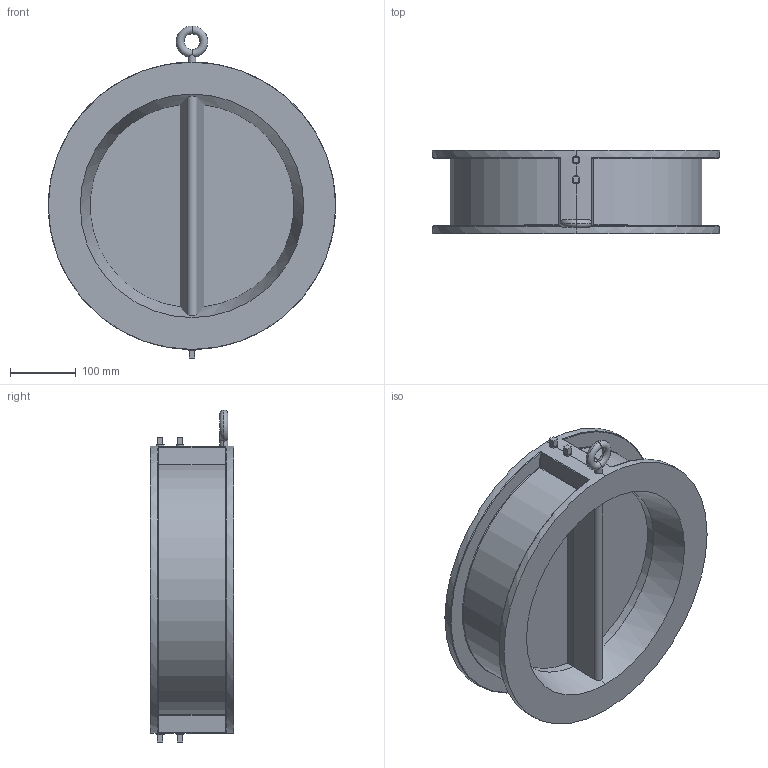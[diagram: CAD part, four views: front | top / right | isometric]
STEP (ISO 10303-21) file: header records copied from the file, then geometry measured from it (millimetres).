
FILE_DESCRIPTION (( 'STEP AP203' ), '1' );
FILE_NAME ('D6_DN350.STEP', '2012-09-21T13:08:48', ( 'luca.saino' ), ( 'Hewlett-Packard Company' ), 'SwSTEP 2.0', 'SolidWorks 2012', '' );
FILE_SCHEMA (( 'CONFIG_CONTROL_DESIGN' ));
Length unit declared in the file: millimetre
Products named in the file (1): D6_DN350
Bounding box: 437 x 127 x 505 mm (x, y, z)
Volume: 5693146.9 mm3; surface area: 732565.8 mm2
Topology: 1 solids, 1 shells, 168 faces, 417 edges, 243 vertices
Faces by surface type: plane 83, cylinder 55, torus 12, sphere 8, bspline 8, cone 2
Entity records: 6225 total; most frequent: CARTESIAN_POINT 2278, ORIENTED_EDGE 818, DIRECTION 797, EDGE_CURVE 409, AXIS2_PLACEMENT_3D 295, VERTEX_POINT 243, LINE 207, VECTOR 207
